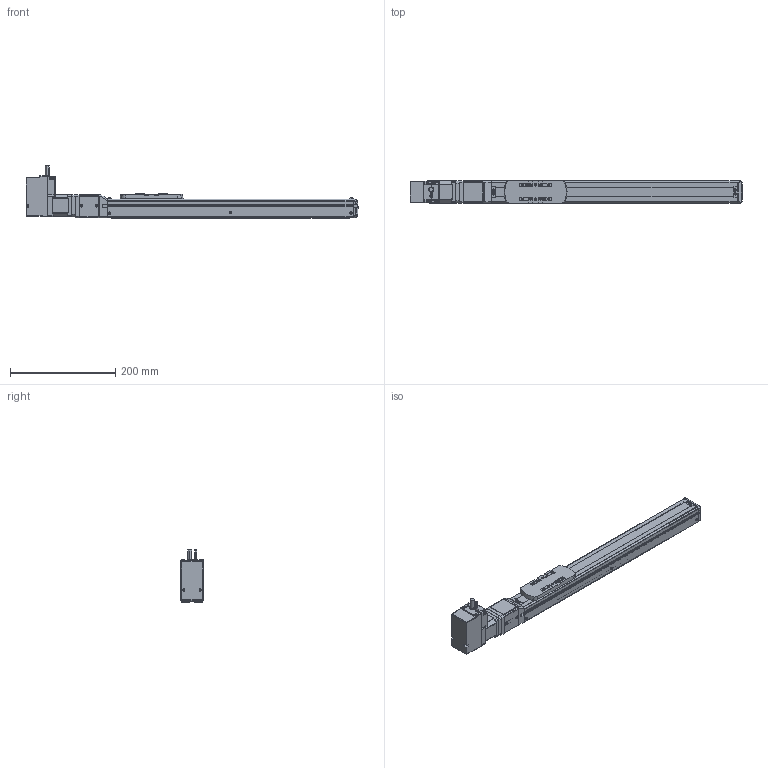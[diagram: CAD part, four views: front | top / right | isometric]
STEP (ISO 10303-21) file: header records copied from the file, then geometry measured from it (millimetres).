
FILE_DESCRIPTION(('FreeCAD Model'),'2;1');
FILE_NAME('Open CASCADE Shape Model','2023-08-01T17:03:46',('Author'),( ''),'Open CASCADE STEP processor 7.5','FreeCAD','Unknown');
FILE_SCHEMA(('AUTOMOTIVE_DESIGN { 1 0 10303 214 1 1 1 1 }'));
Length unit declared in the file: millimetre
Products named in the file (20): SCKSF4_020_300_S; Shapes; Shapes001; Shapes002; Shapes003; Shapes004; Shapes005; Shapes006; Shapes007; Shapes008; Shapes009; Shapes010; Shapes011; Shapes012; Shapes013; KSF4-10-0300-0-AR(0); KSF4---(Cover); KSF4-AR---(Motor bracket); KSF4-10-0300---(slider); KSF4-10-0300-0-AR-(03000ARNo0)---(body)
Assembly tree (19 placements, depth 3):
  SCKSF4_020_300_S
    Shapes
    Shapes001
    Shapes002
    Shapes003
    Shapes004
    Shapes005
    Shapes006
    Shapes007
    Shapes008
    Shapes009
    Shapes010
    Shapes011
    Shapes012
    Shapes013
    KSF4-10-0300-0-AR(0)
      KSF4---(Cover)
      KSF4-AR---(Motor bracket)
      KSF4-10-0300---(slider)
      KSF4-10-0300-0-AR-(03000ARNo0)---(body)
Bounding box: 632 x 45.4 x 99.34 mm (x, y, z)
Volume: 1042770.6 mm3; surface area: 205844.7 mm2
Topology: 18 solids, 18 shells, 1245 faces, 3236 edges, 2110 vertices
Faces by surface type: plane 679, cylinder 420, cone 66, torus 51, bspline 19, revolution 6, sphere 4
Full cylindrical faces by diameter (mm): 2.113 x8, 2.459 x3, 3 x6, 3.242 x4, 3.4 x12, 4 x3, 4.5 x2, 5.5 x8, 6 x1, 6.5 x14, 8 x1, 12 x1, 22 x1, 28 x1, 30 x2
Entity records: 91822 total; most frequent: CARTESIAN_POINT 26556, DIRECTION 12263, LINE 7279, VECTOR 7279, ORIENTED_EDGE 6436, PCURVE 6436, DEFINITIONAL_REPRESENTATION 6436, EDGE_CURVE 3218
